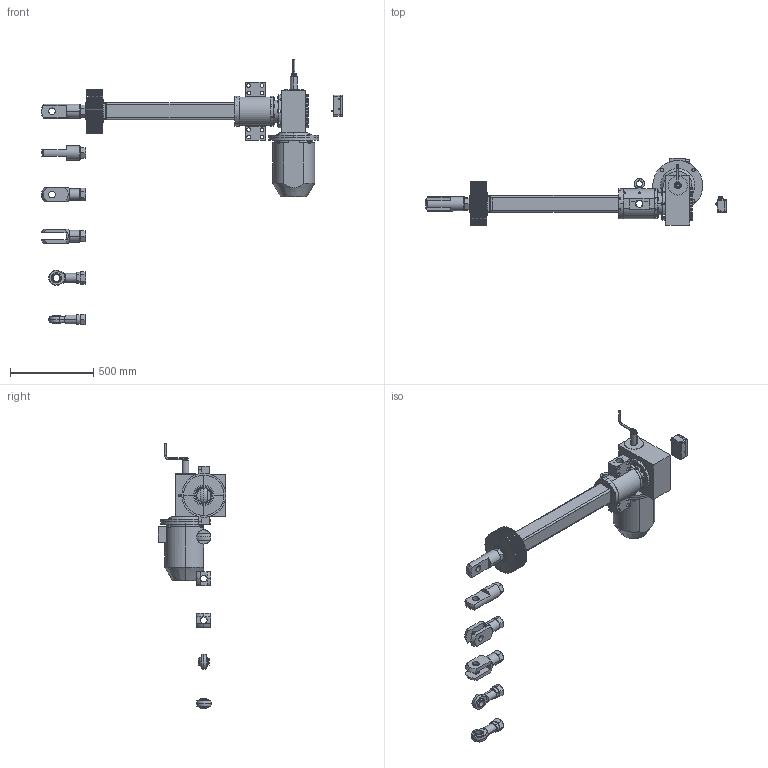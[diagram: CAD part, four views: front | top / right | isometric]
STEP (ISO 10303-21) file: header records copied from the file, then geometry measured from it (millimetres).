
FILE_DESCRIPTION (( 'STEP AP203' ), '1' );
FILE_NAME ('Ì4 6 600.STEP', '2016-12-22T08:29:16', ( '' ), ( '' ), 'SwSTEP 2.0', 'SolidWorks 2012', '' );
FILE_SCHEMA (( 'CONFIG_CONTROL_DESIGN' ));
Length unit declared in the file: millimetre
Products named in the file (9): ﾌ4 6 600; Ãîôð Ñ4_•®¤600; 迕 6; 苂 6; 迍 6; ﾁﾑﾏ; Ñ4 6 ïåðåä áàçà; ﾒ矜 6_600; ﾌ4 6 矜鈞
Assembly tree (11 placements, depth 2):
  ﾌ4 6 600
    ﾌ4 6 矜鈞
    ﾒ矜 6_600
    Ñ4 6 ïåðåä áàçà
    ﾁﾑﾏ
    迍 6  x2
    苂 6  x2
    迕 6  x2
    Ãîôð Ñ4_•®¤600
Bounding box: 1808 x 406 x 1596 mm (x, y, z)
Volume: 1154471 mm3; surface area: 6070726.1 mm2
Topology: 1 solids, 211 shells, 1899 faces, 5158 edges, 3490 vertices
Faces by surface type: plane 756, cylinder 603, cone 404, sphere 64, torus 60, bspline 12
Entity records: 60711 total; most frequent: CARTESIAN_POINT 14523, DIRECTION 10102, ORIENTED_EDGE 8162, EDGE_CURVE 4800, AXIS2_PLACEMENT_3D 4049, VERTEX_POINT 3272, CIRCLE 2253, EDGE_LOOP 2120
